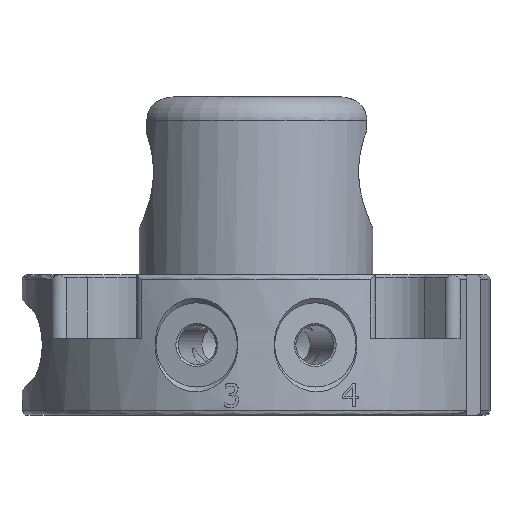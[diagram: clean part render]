
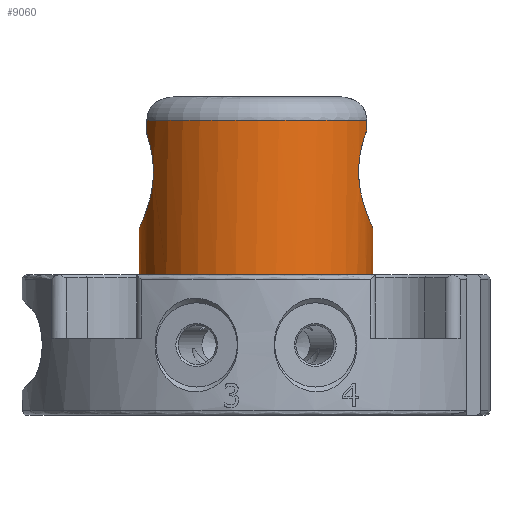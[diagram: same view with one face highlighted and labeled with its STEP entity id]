
A CAD part, left-side view. The second image highlights one B-rep face of the part: STEP entity #9060.
In plain terms, the highlighted cylindrical face has radius 12.5 mm (diameter 25 mm), a full revolution.
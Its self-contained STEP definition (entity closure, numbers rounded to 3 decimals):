
#522=B_SPLINE_CURVE_WITH_KNOTS('',3,(#17660,#17661,#17662,#17663,#17664,
#17665,#17666,#17667,#17668,#17669,#17670,#17671,#17672,#17673,#17674,#17675,
#17676,#17677,#17678,#17679,#17680,#17681,#17682,#17683,#17684,#17685,#17686,
#17687,#17688,#17689,#17690),.UNSPECIFIED.,.F.,.F.,(4,2,2,3,2,2,2,2,2,2,
2,2,2,2,4),(-0.495,-0.461,-0.23,0.,
0.23,0.461,0.691,0.921,
1.151,1.381,1.611,1.842,2.072,
2.303,2.337),.UNSPECIFIED.);
#523=B_SPLINE_CURVE_WITH_KNOTS('',3,(#17692,#17693,#17694,#17695,#17696,
#17697,#17698,#17699,#17700,#17701,#17702,#17703,#17704,#17705,#17706,#17707,
#17708,#17709,#17710,#17711,#17712,#17713,#17714,#17715,#17716,#17717,#17718),
 .UNSPECIFIED.,.F.,.F.,(4,2,2,2,2,2,2,2,2,2,3,2,4),(-2.264,-2.072,
-1.842,-1.611,-1.381,-1.151,
-0.921,-0.691,-0.461,-0.23,
0.,0.23,0.423),.UNSPECIFIED.);
#579=CYLINDRICAL_SURFACE('',#9684,12.5);
#1355=FACE_OUTER_BOUND('',#1902,.T.);
#1902=EDGE_LOOP('',(#8030,#8031,#8032,#8033,#8034,#8035,#8036,#8037,#8038,
#8039,#8040,#8041));
#2532=LINE('',#17572,#3177);
#2535=LINE('',#17603,#3180);
#2543=LINE('',#17653,#3188);
#2546=LINE('',#17658,#3191);
#2547=LINE('',#17726,#3192);
#3177=VECTOR('',#11466,10.);
#3180=VECTOR('',#11473,10.);
#3188=VECTOR('',#11511,10.);
#3191=VECTOR('',#11516,10.);
#3192=VECTOR('',#11533,12.5);
#3279=CIRCLE('',#9337,12.5);
#3417=CIRCLE('',#9664,12.5);
#3419=CIRCLE('',#9682,12.5);
#3420=CIRCLE('',#9683,12.5);
#3938=VERTEX_POINT('',#14975);
#4246=VERTEX_POINT('',#17569);
#4247=VERTEX_POINT('',#17571);
#4250=VERTEX_POINT('',#17593);
#4251=VERTEX_POINT('',#17602);
#4253=VERTEX_POINT('',#17610);
#4254=VERTEX_POINT('',#17619);
#4256=VERTEX_POINT('',#17652);
#4257=VERTEX_POINT('',#17656);
#4258=VERTEX_POINT('',#17722);
#5007=EDGE_CURVE('',#3938,#3938,#3279,.T.);
#5491=EDGE_CURVE('',#4247,#4246,#2532,.T.);
#5497=EDGE_CURVE('',#4251,#4250,#2535,.T.);
#5502=EDGE_CURVE('',#4254,#4253,#3417,.T.);
#5510=EDGE_CURVE('',#4256,#4254,#2543,.T.);
#5513=EDGE_CURVE('',#4253,#4257,#2546,.T.);
#5514=EDGE_CURVE('',#4246,#4256,#522,.T.);
#5515=EDGE_CURVE('',#4257,#4251,#523,.T.);
#5517=EDGE_CURVE('',#4258,#4247,#3419,.T.);
#5518=EDGE_CURVE('',#4250,#4258,#3420,.T.);
#5519=EDGE_CURVE('',#3938,#4258,#2547,.T.);
#8030=ORIENTED_EDGE('',*,*,#5007,.F.);
#8031=ORIENTED_EDGE('',*,*,#5519,.T.);
#8032=ORIENTED_EDGE('',*,*,#5517,.T.);
#8033=ORIENTED_EDGE('',*,*,#5491,.T.);
#8034=ORIENTED_EDGE('',*,*,#5514,.T.);
#8035=ORIENTED_EDGE('',*,*,#5510,.T.);
#8036=ORIENTED_EDGE('',*,*,#5502,.T.);
#8037=ORIENTED_EDGE('',*,*,#5513,.T.);
#8038=ORIENTED_EDGE('',*,*,#5515,.T.);
#8039=ORIENTED_EDGE('',*,*,#5497,.T.);
#8040=ORIENTED_EDGE('',*,*,#5518,.T.);
#8041=ORIENTED_EDGE('',*,*,#5519,.F.);
#9060=ADVANCED_FACE('',(#1355),#579,.T.);
#9337=AXIS2_PLACEMENT_3D('',#14976,#10609,#10610);
#9664=AXIS2_PLACEMENT_3D('',#17620,#11482,#11483);
#9682=AXIS2_PLACEMENT_3D('',#17723,#11527,#11528);
#9683=AXIS2_PLACEMENT_3D('',#17724,#11529,#11530);
#9684=AXIS2_PLACEMENT_3D('',#17725,#11531,#11532);
#10609=DIRECTION('center_axis',(0.,0.,-1.));
#10610=DIRECTION('ref_axis',(1.,0.,0.));
#11466=DIRECTION('',(0.,0.,-1.));
#11473=DIRECTION('',(0.,0.,1.));
#11482=DIRECTION('center_axis',(0.,0.,-1.));
#11483=DIRECTION('ref_axis',(-1.,0.,0.));
#11511=DIRECTION('',(0.,0.,1.));
#11516=DIRECTION('',(0.,0.,-1.));
#11527=DIRECTION('center_axis',(0.,0.,-1.));
#11528=DIRECTION('ref_axis',(-1.,0.,0.));
#11529=DIRECTION('center_axis',(0.,0.,-1.));
#11530=DIRECTION('ref_axis',(-1.,0.,0.));
#11531=DIRECTION('center_axis',(0.,0.,-1.));
#11532=DIRECTION('ref_axis',(-1.,0.,0.));
#11533=DIRECTION('',(0.,0.,1.));
#14975=CARTESIAN_POINT('',(12.5,0.,15.));
#14976=CARTESIAN_POINT('Origin',(0.,0.,15.));
#17569=CARTESIAN_POINT('',(4.,-11.843,30.472));
#17571=CARTESIAN_POINT('',(4.,-11.843,31.5));
#17572=CARTESIAN_POINT('',(4.,-11.843,20.067));
#17593=CARTESIAN_POINT('',(4.5,11.662,31.5));
#17602=CARTESIAN_POINT('',(4.5,11.662,29.969));
#17603=CARTESIAN_POINT('',(4.5,11.662,20.067));
#17610=CARTESIAN_POINT('',(-4.5,11.662,31.5));
#17619=CARTESIAN_POINT('',(-4.,-11.843,31.5));
#17620=CARTESIAN_POINT('Origin',(0.,0.,31.5));
#17652=CARTESIAN_POINT('',(-4.,-11.843,30.472));
#17653=CARTESIAN_POINT('',(-4.,-11.843,20.067));
#17656=CARTESIAN_POINT('',(-4.5,11.662,29.969));
#17658=CARTESIAN_POINT('',(-4.5,11.662,20.067));
#17660=CARTESIAN_POINT('Ctrl Pts',(4.,-11.843,30.472));
#17661=CARTESIAN_POINT('Ctrl Pts',(4.084,-11.814,30.397));
#17662=CARTESIAN_POINT('Ctrl Pts',(4.165,-11.786,30.321));
#17663=CARTESIAN_POINT('Ctrl Pts',(4.769,-11.568,29.716));
#17664=CARTESIAN_POINT('Ctrl Pts',(5.228,-11.359,29.05));
#17665=CARTESIAN_POINT('Ctrl Pts',(5.844,-11.055,27.577));
#17666=CARTESIAN_POINT('Ctrl Pts',(6.,-10.966,26.768));
#17667=CARTESIAN_POINT('Ctrl Pts',(6.,-10.966,26.));
#17668=CARTESIAN_POINT('Ctrl Pts',(6.,-10.966,25.232));
#17669=CARTESIAN_POINT('Ctrl Pts',(5.844,-11.055,24.423));
#17670=CARTESIAN_POINT('Ctrl Pts',(5.228,-11.359,22.95));
#17671=CARTESIAN_POINT('Ctrl Pts',(4.769,-11.568,22.284));
#17672=CARTESIAN_POINT('Ctrl Pts',(3.717,-11.947,21.232));
#17673=CARTESIAN_POINT('Ctrl Pts',(3.051,-12.145,20.772));
#17674=CARTESIAN_POINT('Ctrl Pts',(1.576,-12.423,20.156));
#17675=CARTESIAN_POINT('Ctrl Pts',(0.767,-12.5,20.));
#17676=CARTESIAN_POINT('Ctrl Pts',(-0.767,-12.5,20.));
#17677=CARTESIAN_POINT('Ctrl Pts',(-1.576,-12.423,20.156));
#17678=CARTESIAN_POINT('Ctrl Pts',(-3.051,-12.145,
20.772));
#17679=CARTESIAN_POINT('Ctrl Pts',(-3.717,-11.947,
21.232));
#17680=CARTESIAN_POINT('Ctrl Pts',(-4.769,-11.568,
22.284));
#17681=CARTESIAN_POINT('Ctrl Pts',(-5.228,-11.359,
22.95));
#17682=CARTESIAN_POINT('Ctrl Pts',(-5.844,-11.055,
24.423));
#17683=CARTESIAN_POINT('Ctrl Pts',(-6.,-10.966,25.232));
#17684=CARTESIAN_POINT('Ctrl Pts',(-6.,-10.966,26.768));
#17685=CARTESIAN_POINT('Ctrl Pts',(-5.844,-11.055,
27.577));
#17686=CARTESIAN_POINT('Ctrl Pts',(-5.228,-11.359,
29.05));
#17687=CARTESIAN_POINT('Ctrl Pts',(-4.769,-11.568,
29.716));
#17688=CARTESIAN_POINT('Ctrl Pts',(-4.165,-11.786,
30.321));
#17689=CARTESIAN_POINT('Ctrl Pts',(-4.084,-11.814,
30.397));
#17690=CARTESIAN_POINT('Ctrl Pts',(-4.,-11.843,30.472));
#17692=CARTESIAN_POINT('Ctrl Pts',(-4.5,11.662,29.969));
#17693=CARTESIAN_POINT('Ctrl Pts',(-4.919,11.5,29.494));
#17694=CARTESIAN_POINT('Ctrl Pts',(-5.279,11.334,28.928));
#17695=CARTESIAN_POINT('Ctrl Pts',(-5.844,11.055,27.577));
#17696=CARTESIAN_POINT('Ctrl Pts',(-6.,10.966,26.768));
#17697=CARTESIAN_POINT('Ctrl Pts',(-6.,10.966,25.232));
#17698=CARTESIAN_POINT('Ctrl Pts',(-5.844,11.055,24.423));
#17699=CARTESIAN_POINT('Ctrl Pts',(-5.228,11.359,22.95));
#17700=CARTESIAN_POINT('Ctrl Pts',(-4.769,11.568,22.284));
#17701=CARTESIAN_POINT('Ctrl Pts',(-3.717,11.947,21.232));
#17702=CARTESIAN_POINT('Ctrl Pts',(-3.051,12.145,20.772));
#17703=CARTESIAN_POINT('Ctrl Pts',(-1.576,12.423,20.156));
#17704=CARTESIAN_POINT('Ctrl Pts',(-0.767,12.5,20.));
#17705=CARTESIAN_POINT('Ctrl Pts',(0.767,12.5,20.));
#17706=CARTESIAN_POINT('Ctrl Pts',(1.576,12.423,20.156));
#17707=CARTESIAN_POINT('Ctrl Pts',(3.051,12.145,20.772));
#17708=CARTESIAN_POINT('Ctrl Pts',(3.717,11.947,21.232));
#17709=CARTESIAN_POINT('Ctrl Pts',(4.769,11.568,22.284));
#17710=CARTESIAN_POINT('Ctrl Pts',(5.228,11.359,22.95));
#17711=CARTESIAN_POINT('Ctrl Pts',(5.844,11.055,24.423));
#17712=CARTESIAN_POINT('Ctrl Pts',(6.,10.966,25.232));
#17713=CARTESIAN_POINT('Ctrl Pts',(6.,10.966,26.));
#17714=CARTESIAN_POINT('Ctrl Pts',(6.,10.966,26.768));
#17715=CARTESIAN_POINT('Ctrl Pts',(5.844,11.055,27.577));
#17716=CARTESIAN_POINT('Ctrl Pts',(5.279,11.334,28.928));
#17717=CARTESIAN_POINT('Ctrl Pts',(4.919,11.5,29.494));
#17718=CARTESIAN_POINT('Ctrl Pts',(4.5,11.662,29.969));
#17722=CARTESIAN_POINT('',(12.5,0.,31.5));
#17723=CARTESIAN_POINT('Origin',(0.,0.,31.5));
#17724=CARTESIAN_POINT('Origin',(0.,0.,31.5));
#17725=CARTESIAN_POINT('Origin',(0.,0.,20.067));
#17726=CARTESIAN_POINT('',(12.5,0.,20.067));
